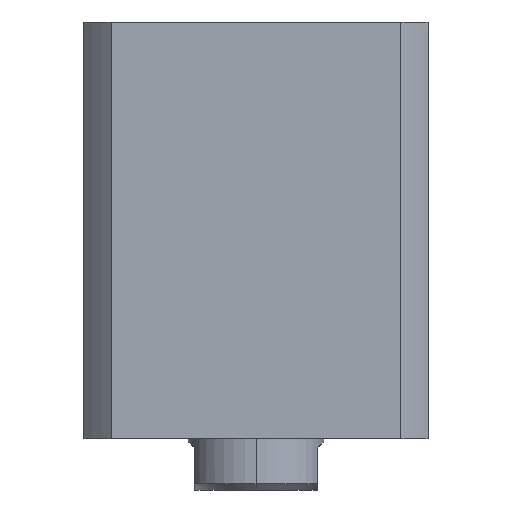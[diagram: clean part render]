
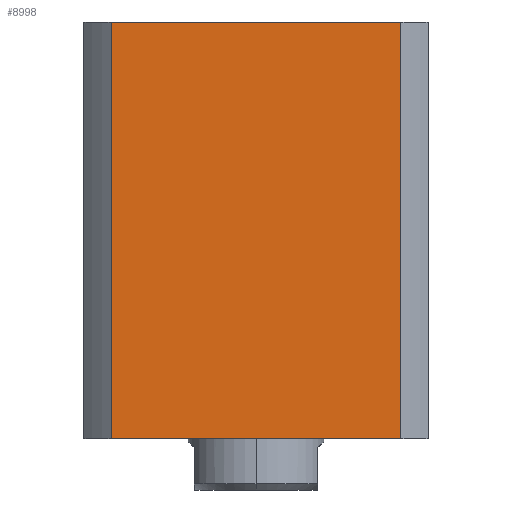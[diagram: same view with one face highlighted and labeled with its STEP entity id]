
A CAD part, front view. The second image highlights one B-rep face of the part: STEP entity #8998.
In plain terms, the highlighted planar face has unit normal (0, -1, 0) as drawn and (-1, 0, 0) by its records, which use the part's own axes.
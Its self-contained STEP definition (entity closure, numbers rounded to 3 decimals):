
#158 = CARTESIAN_POINT ( 'NONE',  ( -57., -47.971, -162. ) ) ;
#283 = EDGE_CURVE ( 'NONE', #7291, #5590, #5748, .T. ) ;
#992 = DIRECTION ( 'NONE',  ( 1., 0., 0. ) ) ;
#1940 = CARTESIAN_POINT ( 'NONE',  ( -57., 57., 138. ) ) ;
#2227 = VECTOR ( 'NONE', #7186, 1000. ) ;
#2751 = EDGE_LOOP ( 'NONE', ( #3865, #5325, #3686, #4953 ) ) ;
#3022 = CARTESIAN_POINT ( 'NONE',  ( -57., 47.971, 138. ) ) ;
#3126 = DIRECTION ( 'NONE',  ( 0., -1., 0. ) ) ;
#3686 = ORIENTED_EDGE ( 'NONE', *, *, #4738, .F. ) ;
#3865 = ORIENTED_EDGE ( 'NONE', *, *, #11059, .F. ) ;
#4738 = EDGE_CURVE ( 'NONE', #11083, #5590, #5025, .T. ) ;
#4953 = ORIENTED_EDGE ( 'NONE', *, *, #8084, .F. ) ;
#5025 = LINE ( 'NONE', #158, #11225 ) ;
#5325 = ORIENTED_EDGE ( 'NONE', *, *, #283, .T. ) ;
#5365 = VECTOR ( 'NONE', #14016, 1000. ) ;
#5525 = CARTESIAN_POINT ( 'NONE',  ( -57., 47.971, 0. ) ) ;
#5537 = VERTEX_POINT ( 'NONE', #3022 ) ;
#5590 = VERTEX_POINT ( 'NONE', #14777 ) ;
#5698 = CARTESIAN_POINT ( 'NONE',  ( -57., 57., 138. ) ) ;
#5748 = LINE ( 'NONE', #13958, #5365 ) ;
#5978 = CARTESIAN_POINT ( 'NONE',  ( -57., 47.971, -162. ) ) ;
#6278 = VECTOR ( 'NONE', #3126, 1000. ) ;
#6626 = LINE ( 'NONE', #1940, #6278 ) ;
#7186 = DIRECTION ( 'NONE',  ( 0., 0., 1. ) ) ;
#7211 = DIRECTION ( 'NONE',  ( 0., 0., -1. ) ) ;
#7291 = VERTEX_POINT ( 'NONE', #5525 ) ;
#8084 = EDGE_CURVE ( 'NONE', #5537, #11083, #6626, .T. ) ;
#8998 = ADVANCED_FACE ( 'NONE', ( #9196 ), #9156, .F. ) ;
#9156 = PLANE ( 'NONE',  #14287 ) ;
#9196 = FACE_OUTER_BOUND ( 'NONE', #2751, .T. ) ;
#9210 = DIRECTION ( 'NONE',  ( 0., 1., 0. ) ) ;
#11059 = EDGE_CURVE ( 'NONE', #7291, #5537, #11208, .T. ) ;
#11083 = VERTEX_POINT ( 'NONE', #14294 ) ;
#11208 = LINE ( 'NONE', #5978, #2227 ) ;
#11225 = VECTOR ( 'NONE', #7211, 1000. ) ;
#13958 = CARTESIAN_POINT ( 'NONE',  ( -57., 57., 0. ) ) ;
#14016 = DIRECTION ( 'NONE',  ( 0., -1., 0. ) ) ;
#14287 = AXIS2_PLACEMENT_3D ( 'NONE', #5698, #992, #9210 ) ;
#14294 = CARTESIAN_POINT ( 'NONE',  ( -57., -47.971, 138. ) ) ;
#14777 = CARTESIAN_POINT ( 'NONE',  ( -57., -47.971, 0. ) ) ;
